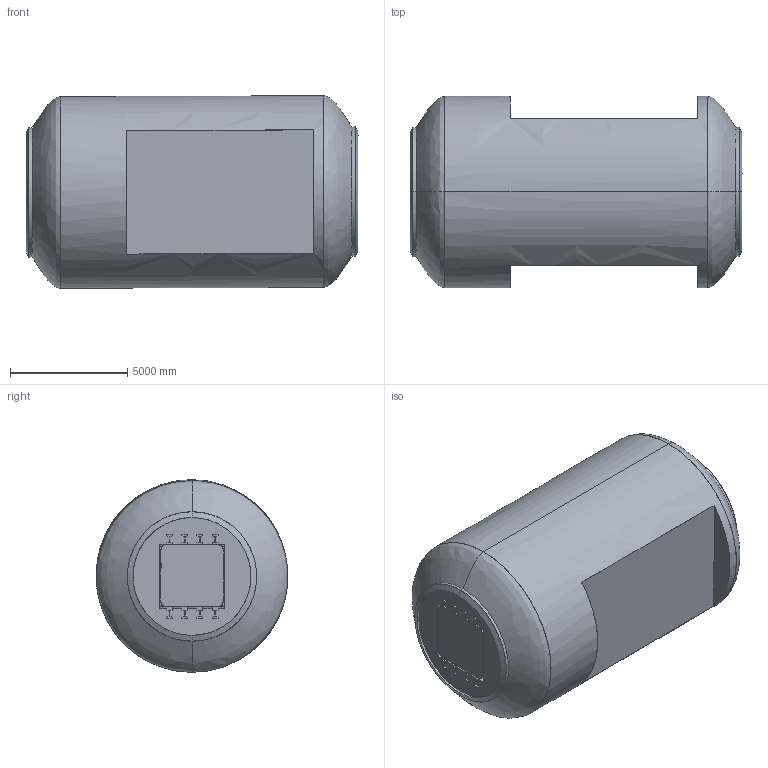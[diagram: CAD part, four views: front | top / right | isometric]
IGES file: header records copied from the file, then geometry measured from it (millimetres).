
Global section: file name: Z:\prj2.1\wind_tunnels\NTF\outgoing\NTF_Rumsey_October_2023\NTF_TestSection_Baseline_in_Plenum_2023_10_02.igs; native system: NX V12.0; preprocessor: SIEMENS PLM Software NX 12.0; date: 20231003.101826; units: inch
Bounding box: 14172.35 x 8181.16 x 8217.24 mm (x, y, z)
Surface area: 832398156.2 mm2 (no closed solid volume)
Topology: 0 solids, 0 shells, 830 faces, 8327 edges, 8327 vertices
Faces by surface type: bspline 830
